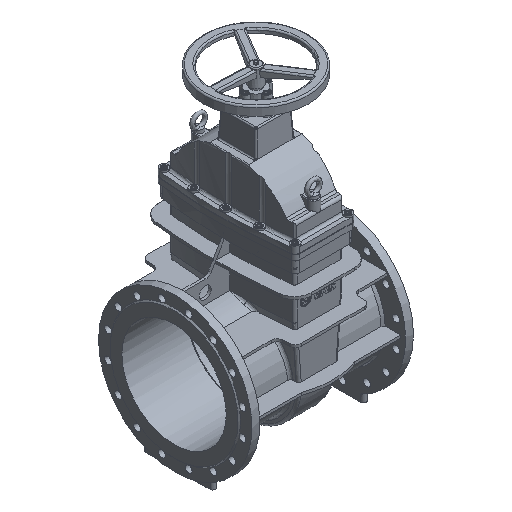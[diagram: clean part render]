
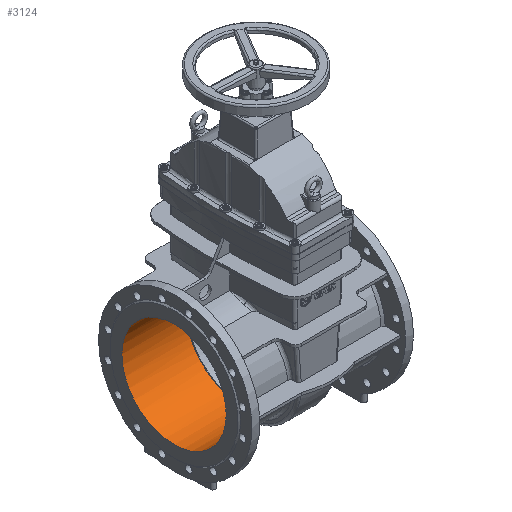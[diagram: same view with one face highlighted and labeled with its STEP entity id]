
A CAD part, isometric view. The second image highlights one B-rep face of the part: STEP entity #3124.
In plain terms, the highlighted cylindrical face has radius 175 mm (diameter 350 mm), a full revolution.
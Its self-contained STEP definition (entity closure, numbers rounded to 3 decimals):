
#3124=ADVANCED_FACE('',(#9758,#9760),#9762,.F.);
#9758=FACE_OUTER_BOUND('',#9759,.T.);
#9759=EDGE_LOOP('',(#28603));
#9760=FACE_OUTER_BOUND('',#9761,.T.);
#9761=EDGE_LOOP('',(#28604));
#9762=CYLINDRICAL_SURFACE('',#9763,175.);
#9763=AXIS2_PLACEMENT_3D('',#9764,#9765,#9766);
#9764=CARTESIAN_POINT('',(244.5,0.,0.));
#9765=DIRECTION('',(1.,0.,0.));
#9766=DIRECTION('',(0.,1.,0.));
#28603=ORIENTED_EDGE('',*,*,#33060,.T.);
#28604=ORIENTED_EDGE('',*,*,#32615,.F.);
#32615=EDGE_CURVE('',#35925,#35925,#35926,.F.);
#33060=EDGE_CURVE('',#36581,#36581,#36582,.T.);
#35925=VERTEX_POINT('',#47325);
#35926=CIRCLE('',#47326,175.);
#36581=VERTEX_POINT('',#48910);
#36582=(BOUNDED_CURVE()B_SPLINE_CURVE(3,
(#48911,#48912,#48913,#48914,#48915,#48916,#48917),
.UNSPECIFIED.,.T.,.F.)B_SPLINE_CURVE_WITH_KNOTS((4,3,4),
(0.,0.5,1.),
.UNSPECIFIED.)CURVE()GEOMETRIC_REPRESENTATION_ITEM()RATIONAL_B_SPLINE_CURVE((1.,
0.333,0.333,1.,0.333,0.333,1.))
REPRESENTATION_ITEM(''));
#47325=CARTESIAN_POINT('',(-275.,-175.,0.));
#47326=AXIS2_PLACEMENT_3D('',#47327,#47328,#47329);
#47327=CARTESIAN_POINT('',(-275.,0.,0.));
#47328=DIRECTION('',(-1.,0.,0.));
#47329=DIRECTION('',(0.,-1.,0.));
#48910=CARTESIAN_POINT('',(-57.015,-175.,0.));
#48911=CARTESIAN_POINT('',(-57.015,-175.,0.));
#48912=CARTESIAN_POINT('',(-38.672,-175.,-350.));
#48913=CARTESIAN_POINT('',(-38.672,175.,-350.));
#48914=CARTESIAN_POINT('',(-57.015,175.,0.));
#48915=CARTESIAN_POINT('',(-75.357,175.,350.));
#48916=CARTESIAN_POINT('',(-75.357,-175.,350.));
#48917=CARTESIAN_POINT('',(-57.015,-175.,0.));
